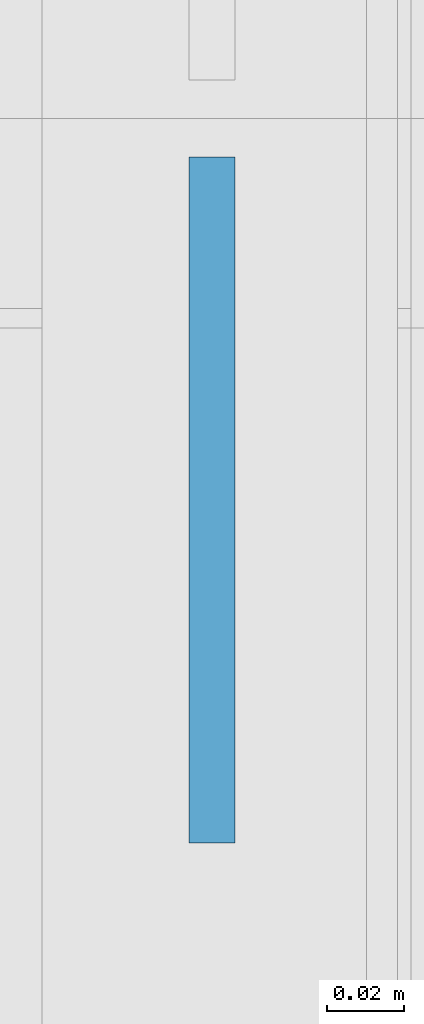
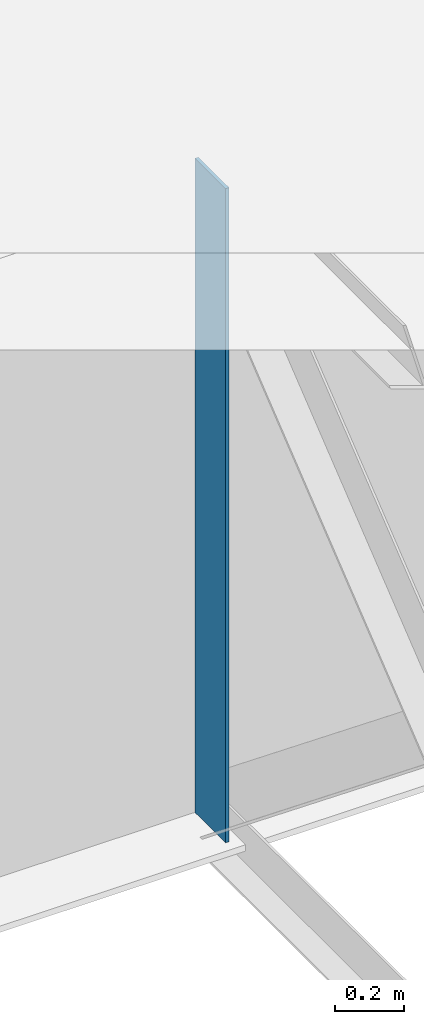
# One storey, part 7 of 12: 1 plate.
"""IFC4 building model written with IfcOpenShell, lengths in metres."""

from ifc_helpers import new_model, si_unit, frame, origin, origin_with_axes, origin_2d_with_axis, place, context, subcontext, project, spatial, rectangle, extrude, element, save


model = new_model("IFC4")

# Units and contexts
model_context = context("Model", 3, precision=1e-05, world=origin())
body_context = subcontext(model_context, "Body", "Model", "MODEL_VIEW")
ifc_project = project(units=[si_unit("LENGTHUNIT", "METRE"), si_unit("AREAUNIT", "SQUARE_METRE"), si_unit("VOLUMEUNIT", "CUBIC_METRE"), si_unit("PLANEANGLEUNIT", "RADIAN")], contexts=[model_context])

# Site, building, storey
site_placement = place(None, origin_with_axes())
site = spatial("IfcSite", under=ifc_project, at=site_placement, Name="Default Site")
building_placement = place(site_placement, origin_with_axes())
building = spatial("IfcBuilding", under=site, at=building_placement, Name="Bridge Structure")
storey_placement = place(building_placement, origin_with_axes())
storey = spatial("IfcBuildingStorey", under=building, at=storey_placement, Name="Superstructure")

# Plate
plate_placement = place(storey_placement, frame((19.998, -0.09875, -1.155), z_axis=(0.0, 0.0, 1.0), x_axis=(1.0, 0.0, 0.0)))
element("IfcPlate", 1, at=plate_placement, inside=storey, Name="Intermediate Stiffener 2", context=body_context, shape_type="SweptSolid", body=[
    extrude(rectangle(XDim=0.012, YDim=0.1775, at=origin_2d_with_axis()), origin_with_axes(), (0.0, 0.0, 1.0), 2.31),
])

save(model, "model.ifc")
